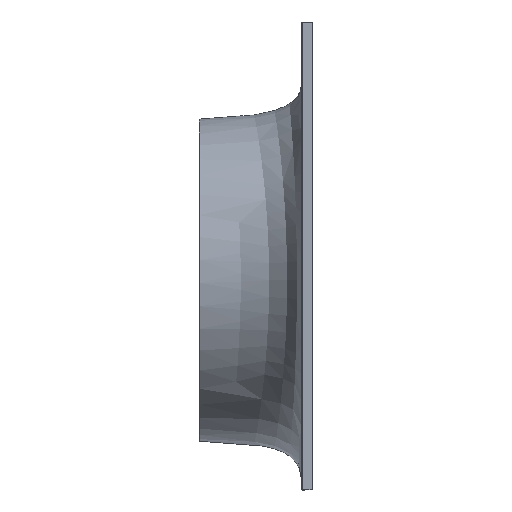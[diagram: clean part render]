
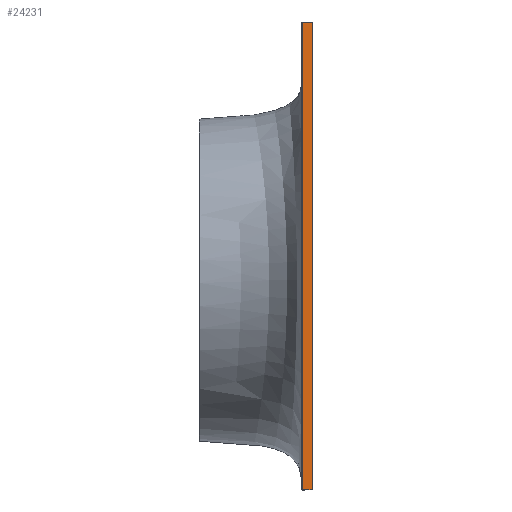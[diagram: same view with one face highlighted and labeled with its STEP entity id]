
A CAD part, left-side view. The second image highlights one B-rep face of the part: STEP entity #24231.
In plain terms, the highlighted planar face has unit normal (-1, 0, 0) as drawn and (1, 0, 0) by its records, which use the part's own axes.
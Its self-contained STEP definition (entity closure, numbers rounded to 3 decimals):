
#322 = CARTESIAN_POINT ( 'NONE',  ( 400., 60.1, 237.146 ) ) ;
#1339 = DIRECTION ( 'NONE',  ( 0., 0., -1. ) ) ;
#2233 = DIRECTION ( 'NONE',  ( 0., -1., 0. ) ) ;
#3368 = CARTESIAN_POINT ( 'NONE',  ( 400., 60.1, 237.646 ) ) ;
#4343 = LINE ( 'NONE', #5344, #11212 ) ;
#4736 = CARTESIAN_POINT ( 'NONE',  ( 400., 9.6, 237.646 ) ) ;
#5197 = ORIENTED_EDGE ( 'NONE', *, *, #10917, .T. ) ;
#5335 = CARTESIAN_POINT ( 'NONE',  ( 400., -1.52, 237.646 ) ) ;
#5344 = CARTESIAN_POINT ( 'NONE',  ( 400., 60.1, -292.354 ) ) ;
#5348 = EDGE_CURVE ( 'NONE', #21954, #18615, #24121, .T. ) ;
#5540 = PLANE ( 'NONE',  #15232 ) ;
#6108 = FACE_OUTER_BOUND ( 'NONE', #11800, .T. ) ;
#6454 = ORIENTED_EDGE ( 'NONE', *, *, #23896, .T. ) ;
#8271 = ORIENTED_EDGE ( 'NONE', *, *, #5348, .T. ) ;
#8873 = VECTOR ( 'NONE', #1339, 1000. ) ;
#10917 = EDGE_CURVE ( 'NONE', #18615, #17497, #4343, .T. ) ;
#11212 = VECTOR ( 'NONE', #13061, 1000. ) ;
#11800 = EDGE_LOOP ( 'NONE', ( #13299, #8271, #5197, #6454 ) ) ;
#13061 = DIRECTION ( 'NONE',  ( 0., 1., 0. ) ) ;
#13299 = ORIENTED_EDGE ( 'NONE', *, *, #22593, .T. ) ;
#13303 = VERTEX_POINT ( 'NONE', #20127 ) ;
#13394 = CARTESIAN_POINT ( 'NONE',  ( 400., -1.52, -292.354 ) ) ;
#13448 = CARTESIAN_POINT ( 'NONE',  ( 400., 9.6, -292.354 ) ) ;
#14507 = VECTOR ( 'NONE', #23809, 1000. ) ;
#15095 = DIRECTION ( 'NONE',  ( 0., 0., 1. ) ) ;
#15232 = AXIS2_PLACEMENT_3D ( 'NONE', #3368, #22674, #15095 ) ;
#16595 = LINE ( 'NONE', #4736, #14507 ) ;
#17497 = VERTEX_POINT ( 'NONE', #13448 ) ;
#17505 = LINE ( 'NONE', #322, #24370 ) ;
#18615 = VERTEX_POINT ( 'NONE', #13394 ) ;
#19231 = CARTESIAN_POINT ( 'NONE',  ( 400., -1.52, 237.146 ) ) ;
#20127 = CARTESIAN_POINT ( 'NONE',  ( 400., 9.6, 237.146 ) ) ;
#21954 = VERTEX_POINT ( 'NONE', #19231 ) ;
#22593 = EDGE_CURVE ( 'NONE', #13303, #21954, #17505, .T. ) ;
#22674 = DIRECTION ( 'NONE',  ( -1., 0., 0. ) ) ;
#23809 = DIRECTION ( 'NONE',  ( 0., 0., 1. ) ) ;
#23896 = EDGE_CURVE ( 'NONE', #17497, #13303, #16595, .T. ) ;
#24121 = LINE ( 'NONE', #5335, #8873 ) ;
#24231 = ADVANCED_FACE ( 'NONE', ( #6108 ), #5540, .F. ) ;
#24370 = VECTOR ( 'NONE', #2233, 1000. ) ;
